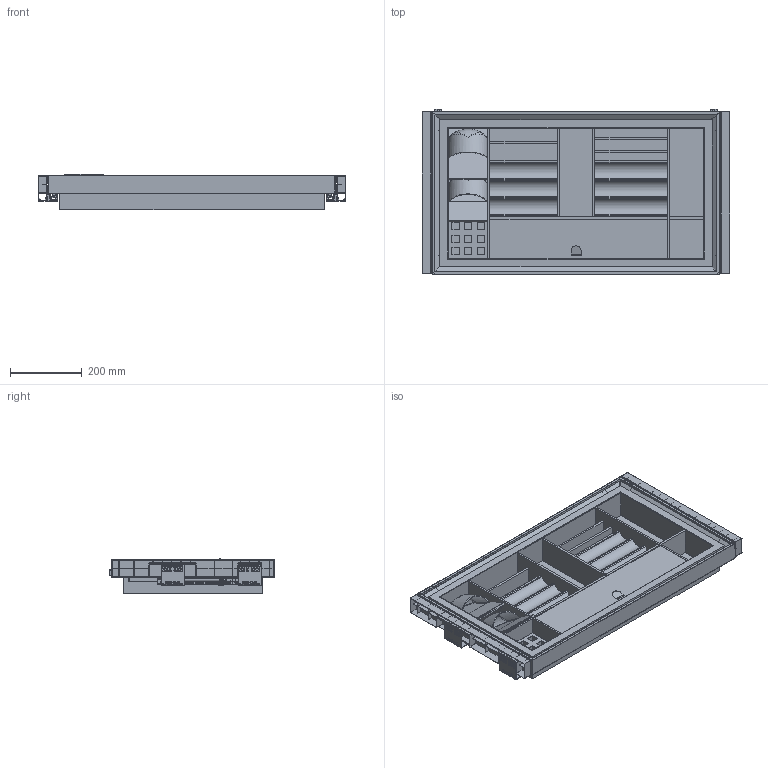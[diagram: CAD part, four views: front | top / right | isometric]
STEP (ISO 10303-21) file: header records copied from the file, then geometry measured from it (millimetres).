
FILE_DESCRIPTION(/* description */ ('STEP AP242 Edition 2','CAx-IF Rec.Pracs.---Representation and Presentation of Product Manufacturing Information (PMI)---4.0---2014-10-13','CAx-IF Rec.Pracs.---3D Tessellated Geometry---0.4---2014-09-14','2;1','CAx-IF Rec.Pracs.---User Defined Attributes---1.5---2016-08-15'),/* implementation_level */ '2;1');
FILE_NAME(/* name */ '6a0ec8c493d4219ca213ccd0',/* time_stamp */ '2026-05-21T08:56:41Z',/* author */ (''),/* organization */ (''),/* preprocessor_version */ 'ST-DEVELOPER v20',/* originating_system */ 'ONSHAPE BY PTC INC, 1.215',/* authorisation */ ' ');
FILE_SCHEMA (('AP242_MANAGED_MODEL_BASED_3D_ENGINEERING_MIM_LF { 1 0 10303 442 3 1 4 }'));
Products named in the file (49): 900 assembly; Part 1; Part 7; Part 2; Part 5; Part 10; Part 9; Part 6; Part 4; Part 3; Part 8; assembly 900 (864mm) <1>; Part 24; Part 15; Part 19; Part 17; Part 12; Part 14; Part 13; Part 21; Part 22; Part 18; Part 20; Part 16; Part 23; Part 11
Assembly tree (49 placements, depth 3):
  900 assembly
    Part 1
    Part 7
    Part 2
    Part 5
    Part 10
    Part 9
    Part 1  x2
    Part 6
    Part 4
    Part 3
    Part 8
    assembly 900 (864mm) <1>
      Part 8
      Part 24
      Part 5
      Part 7
      Part 15
      Part 19
      Part 3
      Part 1
      Part 9
      Part 17
      Part 12
      Part 9
      Part 2
      Part 1
      Part 7
      Part 2
      Part 1
      Part 14
      Part 3
      Part 13
      Part 4
      Part 10
      Part 8
      Part 4
      Part 21
      Part 2
      Part 22
      Part 6
      Part 6
      Part 18
      Part 20
      Part 16
      Part 10
      Part 23
      Part 11
      Part 5
Bounding box: 859.35 x 462.53 x 99.38 mm (x, y, z)
Volume: 10271321.1 mm3; surface area: 3898502.5 mm2
Topology: 48 solids, 48 shells, 4753 faces, 12263 edges, 7320 vertices
Faces by surface type: plane 2456, cylinder 1535, torus 352, sphere 344, bspline 64, cone 2
Full cylindrical faces by diameter (mm): 2 x2, 2.1 x2, 2.45 x2, 2.5 x2, 2.6 x2, 4 x4, 4.5 x2, 6 x56, 9 x2
Entity records: 141502 total; most frequent: CARTESIAN_POINT 25603, DIRECTION 24455, ORIENTED_EDGE 23538, EDGE_CURVE 11769, AXIS2_PLACEMENT_3D 8153, LINE 8149, VECTOR 8149, VERTEX_POINT 7278
